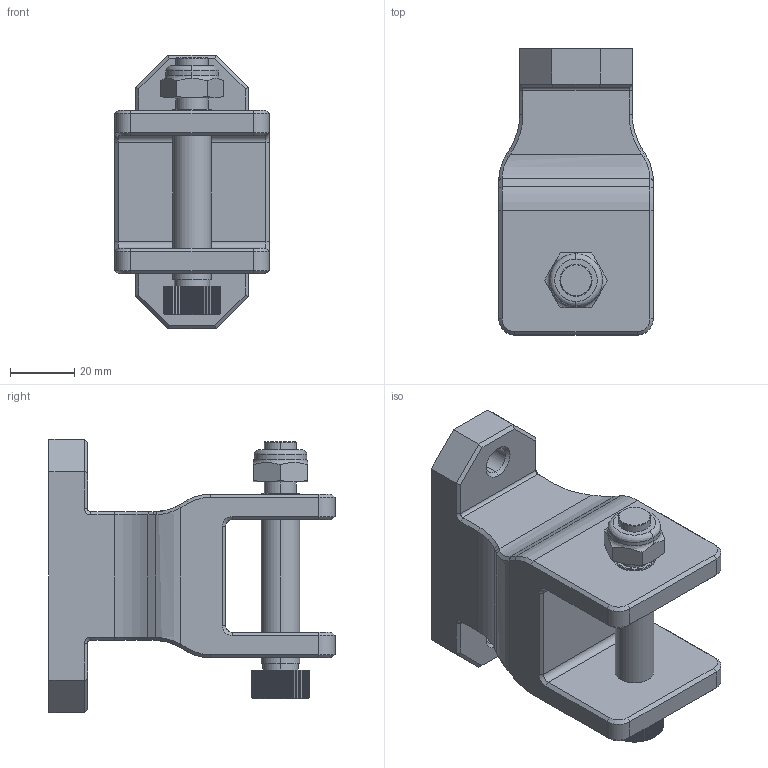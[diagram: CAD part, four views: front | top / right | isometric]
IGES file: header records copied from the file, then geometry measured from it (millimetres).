
Start section:  PTC IGES file: 6158125350.igs
Global section: file name: 6158125350.igs; native system: Creo Parametric by PTC Inc.; preprocessor: 2016050; author: greextsd; organization: Unknown; date: 20160602.125904; units: millimetre
Bounding box: 48 x 89 x 85 mm (x, y, z)
Volume: 146381.8 mm3; surface area: 27502.3 mm2
Topology: 1 solids, 1 shells, 478 faces, 1312 edges, 844 vertices
Faces by surface type: bspline 294, revolution 184
